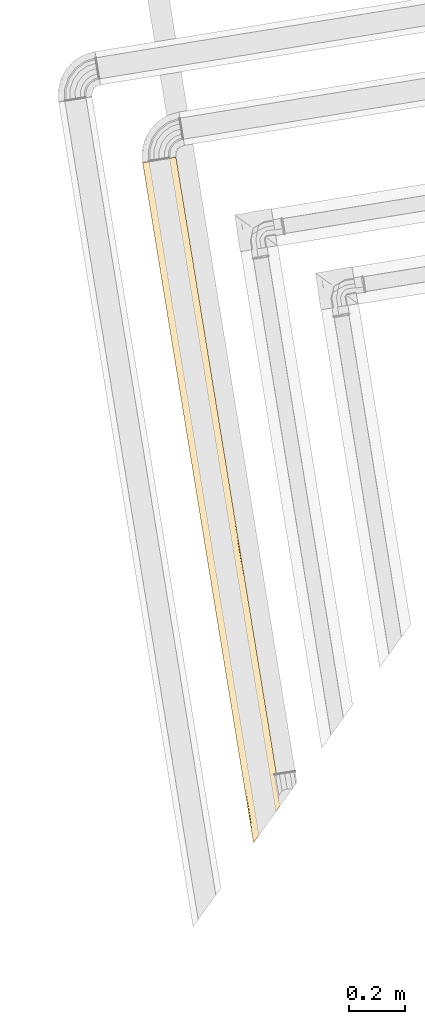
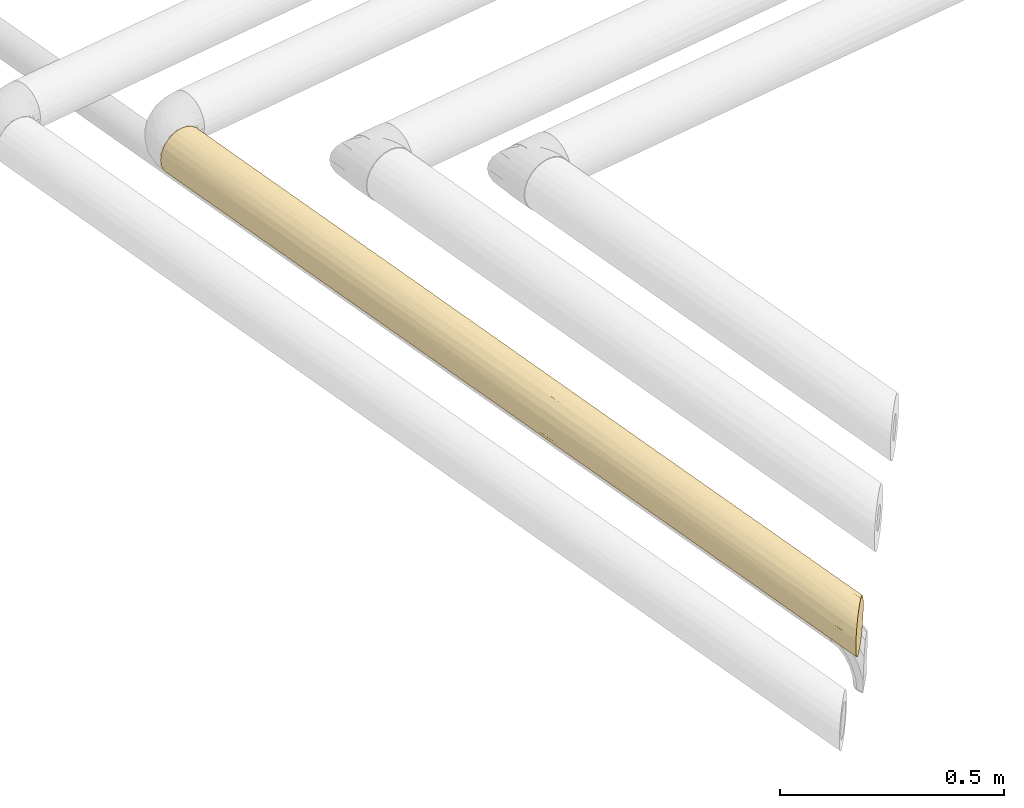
# One storey, part 1 of 46: 1 covering.
"""IFC2X3 building model written with IfcOpenShell, lengths in millimetres."""

from ifc_helpers import new_model, entity, si_unit, converted_unit, derived_unit, direction, frame, origin, origin_with_axes, place, context, subcontext, project, spatial, faceted_brep, type_object, element, save


model = new_model("IFC2X3")

# Units and contexts
model_context = context("Model", 3, precision=0.01, world=origin(), true_north=direction((6.12323399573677e-17, 1.0)))
plan_context = context("Plan", 3, precision=1e-05, world=origin_with_axes())
body_context = subcontext(model_context, "Body", "Model", "MODEL_VIEW")
ifc_project = project(units=[converted_unit("PLANEANGLEUNIT", "DEGREE", entity("IfcPositiveLengthMeasure", 0.0174532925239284), si_unit("PLANEANGLEUNIT", "RADIAN"), dimensions=[0, 0, 0, 0, 0, 0, 0]), si_unit("AREAUNIT", "SQUARE_METRE"), si_unit("LENGTHUNIT", "METRE", prefix="MILLI"), si_unit("MASSUNIT", "GRAM", prefix="KILO"), si_unit("POWERUNIT", "WATT"), si_unit("PRESSUREUNIT", "PASCAL", prefix="KILO"), si_unit("FORCEUNIT", "NEWTON", prefix="KILO"), si_unit("ELECTRICVOLTAGEUNIT", "VOLT"), si_unit("ELECTRICCURRENTUNIT", "AMPERE"), si_unit("THERMODYNAMICTEMPERATUREUNIT", "DEGREE_CELSIUS"), si_unit("TIMEUNIT", "SECOND"), si_unit("VOLUMEUNIT", "CUBIC_METRE"), derived_unit("LINEARVELOCITYUNIT", [(si_unit("LENGTHUNIT", "METRE"), 1), (si_unit("TIMEUNIT", "SECOND"), -1)]), derived_unit("VOLUMETRICFLOWRATEUNIT", [(si_unit("VOLUMEUNIT", "CUBIC_METRE"), 1), (si_unit("TIMEUNIT", "SECOND"), -1)]), derived_unit("THERMALTRANSMITTANCEUNIT", [(si_unit("POWERUNIT", "WATT"), 1), (si_unit("THERMODYNAMICTEMPERATUREUNIT", "KELVIN"), -1), (si_unit("AREAUNIT", "SQUARE_METRE"), -1)]), derived_unit("SOUNDPRESSUREUNIT", [(si_unit("PRESSUREUNIT", "PASCAL"), 1)])], contexts=[model_context, plan_context])

# Site, building, storey
site_placement = place(None, frame((-3.09682673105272e-06, 1.93776733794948e-05, 0.0), z_axis=(0.0, 0.0, 1.0), x_axis=(-0.160806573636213, 0.986985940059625, 0.0)))
site = spatial("IfcSite", under=ifc_project, at=site_placement, Name="Default", CompositionType="ELEMENT")
building_placement = place(site_placement, frame((0.0, 0.0, 0.0), z_axis=(0.0, 0.0, 1.0), x_axis=(1.0, -2.77555756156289e-17, 0.0)))
building = spatial("IfcBuilding", under=site, at=building_placement, Name="Bygning (endres i Project Information)", CompositionType="ELEMENT")
storey_placement = place(building_placement, frame((0.0, 0.0, 51360.0000000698), z_axis=(0.0, 0.0, 1.0), x_axis=(1.0, -2.77555756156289e-17, 0.0)))
storey = spatial("IfcBuildingStorey", under=building, at=storey_placement, Name="H01-Nivå D+0,36", CompositionType="ELEMENT", Elevation=51360.0000000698)

# Covering
covering_type = type_object("IfcCoveringType", Name="Pipe Insulation:GLAVA avløpsisol. slange økende 19mm (15,5-25,0)", PredefinedType="INSULATION")
covering_placement = place(storey_placement, frame((995884.936842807, -347069.044426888, 3378.35472846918), z_axis=(0.0, 0.0, 1.0), x_axis=(1.0, -2.77555756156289e-17, 0.0)))
element("IfcCovering", 1, at=covering_placement, inside=storey, type_object=covering_type, Name="Pipe Insulation:GLAVA avløpsisol. slange økende 19mm (15,5-25,0)", ObjectType="Pipe Insulation:GLAVA avløpsisol. slange økende 19mm (15,5-25,0)", PredefinedType="INSULATION", context=body_context, shape_type="Brep", body=[
    faceted_brep([(3721.93080012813, 113.650096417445, 31.6202718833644), (3721.93080012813, 104.107033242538, 19.183509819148), (3721.93080012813, 91.6702711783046, 9.64044664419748), (3721.93080012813, 77.1873550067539, 3.64142634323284), (3721.93080012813, 61.6452715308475, 1.5952722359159), (3721.93080012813, 46.103188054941, 3.64142634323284), (3721.93080012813, 31.6202718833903, 9.64044664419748), (3721.93080012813, 19.1835098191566, 19.183509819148), (3721.93080012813, 9.64044664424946, 31.6202718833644), (3721.93080012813, 3.64142634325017, 46.1031880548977), (3721.93080012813, 1.59527223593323, 61.6452715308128), (3721.93080012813, 3.64142634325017, 77.1873550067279), (3721.93080012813, 9.64044664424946, 91.6702711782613), (3721.93080012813, 19.1835098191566, 104.107033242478), (3721.93080012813, 31.6202718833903, 113.650096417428), (3721.93080012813, 46.103188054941, 119.649116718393), (3721.93080012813, 61.6452715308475, 121.69527082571), (3721.93080012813, 77.1873550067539, 119.649116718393), (3721.93080012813, 91.6702711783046, 113.650096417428), (3721.93080012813, 104.107033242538, 104.107033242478), (3721.93080012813, 113.650096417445, 91.6702711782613), (3721.93080012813, 119.649116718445, 77.1873550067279), (3721.93080012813, 121.695270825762, 61.6452715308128), (3721.93080012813, 119.649116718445, 46.1031880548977), (1312.61931771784, 80.6968619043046, 4.69768372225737), (1313.14008855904, 80.1760910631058, 4.61520286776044), (1319.8075302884, 80.7113602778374, 4.70243462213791), (1311.9381200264, 81.3780595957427, 5.05701463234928), (1280.3762537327, 112.939925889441, 30.6633684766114), (1286.5334387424, 106.782740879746, 22.0410832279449), (1625.16788861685, 109.029884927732, 24.7575929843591), (1286.6721727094, 106.644006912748, 21.9039986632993), (1514.65136504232, 98.7809884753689, 14.4547964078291), (1294.85265356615, 98.4635260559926, 14.208101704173), (1916.29816244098, 98.4979429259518, 14.2334267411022), (1708.62419371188, 89.4999537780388, 8.44640789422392), (2053.82594239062, 88.3421722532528, 7.85607273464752), (2365.21461210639, 99.3431061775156, 14.902617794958), (2112.46715155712, 110.447666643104, 26.6548636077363), (2608.56754587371, 109.286139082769, 25.0891481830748), (2402.1232671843, 118.588108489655, 42.5791829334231), (2766.36439129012, 118.828846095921, 43.3138445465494), (2639.61555903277, 121.695270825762, 61.6452715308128), (3078.37912275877, 120.597692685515, 50.216603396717), (3180.77317958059, 121.695270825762, 61.6452715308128), (3079.14038784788, 120.581439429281, 73.1574619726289), (2706.12874762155, 119.78592790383, 76.6674714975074), (3020.23775429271, 117.124236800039, 84.6254113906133), (2670.80988597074, 115.376230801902, 88.4591938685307), (2813.3426711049, 109.298154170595, 98.1857311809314), (2365.21461305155, 108.387925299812, 99.3431061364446), (2369.03613012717, 117.638042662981, 83.343474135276), (2053.82594411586, 115.434470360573, 88.3421721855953), (2233.74666286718, 120.672249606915, 72.6824031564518), (1827.87826199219, 119.448115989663, 77.9189800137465), (2098.45835690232, 121.695270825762, 61.6452715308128), (2164.63048219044, 121.695270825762, 61.6452715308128), (2369.03587341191, 121.695270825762, 61.6452715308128), (1894.05253700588, 120.762928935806, 51.1046359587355), (1623.47286164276, 121.695270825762, 61.6452715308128), (1557.29965179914, 121.695270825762, 61.6452715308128), (1352.89306648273, 121.695270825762, 61.6452715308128), (1488.18413595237, 120.762928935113, 51.1046359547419), (1274.13046838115, 119.185711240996, 77.0443656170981), (1271.62090879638, 121.695270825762, 61.6452715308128), (1319.80753212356, 118.588108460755, 80.7113602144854), (1274.69825712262, 118.617922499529, 80.6203763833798), (1291.76328357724, 101.552896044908, 106.468414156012), (1284.2218065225, 109.09437309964, 98.4481715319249), (1514.65136591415, 108.835746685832, 98.7809884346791), (1292.11146636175, 101.204713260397, 106.819756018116), (1625.16789060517, 98.5329501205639, 109.029884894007), (1300.34693641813, 92.9692432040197, 112.713452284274), (1331.6709080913, 61.6452715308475, 121.69527082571), (1330.63036898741, 62.6858106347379, 121.564146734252), (1352.8904658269, 61.6452715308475, 121.69527082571), (1348.43850402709, 44.8776755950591, 118.962689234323), (1557.30258108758, 61.6452715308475, 121.69527082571), (1373.66911288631, 19.6470667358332, 104.229162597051), (1368.59567199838, 24.720507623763, 108.999674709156), (1514.65136592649, 24.5095546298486, 108.835746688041), (1377.41143452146, 15.904745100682, 100.520440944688), (1625.16789228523, 14.2606581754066, 98.5329501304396), (1381.81521403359, 11.5009655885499, 94.3646754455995), (1388.77327584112, 4.54290378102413, 44.3715799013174), (1391.72090738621, 1.59527223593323, 61.6452715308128), (1623.47361148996, 1.59527223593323, 61.6452715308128), (1391.45520240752, 1.86097721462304, 64.6492117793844), (1488.18413499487, 2.52761414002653, 72.1859071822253), (1894.052535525, 2.52761413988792, 72.1859071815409), (2164.63148198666, 1.59527223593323, 61.6452715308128), (1390.58540978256, 2.73076983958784, 73.1226042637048), (1623.47360173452, 5.29568859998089, 82.3992330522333), (1388.65724334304, 4.65893627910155, 78.1673097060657), (1385.95065838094, 7.36552124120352, 86.9062027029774), (1986.56159275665, 6.39342637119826, 85.1662413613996), (2402.12326722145, 4.7024345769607, 80.7113601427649), (2112.46715261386, 12.8428764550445, 96.6356795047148), (1916.29816349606, 24.79260018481, 109.05711635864), (2365.21461332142, 23.9474369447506, 108.387925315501), (2053.82594439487, 34.9483709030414, 115.434470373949), (1708.62419523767, 33.7905892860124, 114.844135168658), (1353.89856615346, 39.4176134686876, 116.881777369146), (1351.45227677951, 41.8639028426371, 118.283396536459), (1350.56793615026, 42.7482434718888, 118.640176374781), (1827.8782635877, 45.3715630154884, 119.448115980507), (2233.74666420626, 50.6081399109, 120.672249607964), (2369.0361312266, 39.9470689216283, 117.638042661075), (2706.12874834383, 46.6230715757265, 119.785927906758), (2369.0368124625, 61.6452715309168, 121.69527082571), (2098.45873533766, 61.6452715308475, 121.69527082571), (2164.6300688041, 61.6452715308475, 121.69527082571), (2639.61386448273, 61.6452715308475, 121.69527082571), (2402.12326728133, 80.7113601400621, 118.588108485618), (2766.36439146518, 79.9766985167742, 118.828846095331), (3078.37912334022, 73.0739396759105, 120.597692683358), (3180.77233230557, 61.6452715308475, 121.69527082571), (3079.14038835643, 50.1330810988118, 120.581439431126), (3020.23775481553, 38.6651316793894, 117.124236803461), (2670.80988697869, 34.8313492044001, 115.376230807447), (2813.34267157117, 25.1048118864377, 109.298154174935), (2608.56754657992, 14.0044040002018, 98.2013949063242), (2980.90033073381, 15.8085501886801, 100.439567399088), (3106.72725288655, 6.16630625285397, 84.6254113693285), (2766.36439150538, 4.46169696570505, 79.976698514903), (3078.37912366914, 2.69285037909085, 73.0739396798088), (3398.75959711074, 2.49976550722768, 72.0285047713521), (3449.63233174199, 6.16630625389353, 84.6254113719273), (3353.23311490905, 14.0044040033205, 98.2013949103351), (3278.22863887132, 25.089148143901, 109.2861390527), (3402.03615702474, 38.6651316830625, 117.124236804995), (3400.9419971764, 51.3673052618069, 120.80916106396), (3398.75959694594, 72.0285047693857, 120.790777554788), (3449.63233171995, 84.6254113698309, 117.12423680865), (3106.72725277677, 84.625411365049, 117.124236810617), (3353.23311470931, 98.2013949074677, 109.286139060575), (3278.22863859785, 109.286139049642, 98.2013949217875), (2980.90033052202, 100.43956740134, 107.481992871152), (2608.56754637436, 98.2013948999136, 109.286139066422), (3402.03615679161, 117.124236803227, 84.6254113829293), (3400.94199691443, 120.809161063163, 71.9232378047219), (3398.75959664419, 120.790777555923, 51.2620382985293), (3449.63233169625, 117.124236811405, 38.6651316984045), (3106.72725258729, 117.124236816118, 38.6651317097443), (3353.23311435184, 109.286139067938, 25.0891481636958), (3278.22863801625, 98.2013949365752, 14.0044040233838), (2980.90033006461, 107.481992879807, 22.8509756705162), (2813.34267017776, 98.1857312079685, 13.9923889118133), (3020.23775289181, 84.6254114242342, 6.16630627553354), (2670.80988346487, 88.4591939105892, 7.91431228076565), (2369.03612707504, 83.3434741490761, 5.65250040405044), (2706.12874546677, 76.6674715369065, 3.5046151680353), (2233.74665910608, 72.6824031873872, 2.61829346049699), (1827.87825773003, 77.9189799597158, 3.8424270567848), (2098.45709032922, 61.6452715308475, 1.5952722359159), (2164.63151125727, 61.6452715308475, 1.5952722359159), (2369.03590975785, 61.6452715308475, 1.5952722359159), (1623.47341881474, 61.6452715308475, 1.5952722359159), (1693.04622073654, 51.139064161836, 2.52148594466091), (1971.65129605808, 48.3672242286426, 3.08166615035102), (2444.54986683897, 52.0727473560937, 2.36315621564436), (2402.12326547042, 40.4959764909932, 5.44287180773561), (2727.44708785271, 46.4789739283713, 3.54203726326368), (2690.24299271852, 34.9024303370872, 7.87889858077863), (3020.23775236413, 38.6651317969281, 6.16630620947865), (2813.34266997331, 25.1048120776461, 13.9923887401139), (2321.05142652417, 24.5870451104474, 14.3939194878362), (2608.56754366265, 14.0044042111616, 25.0891478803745), (2212.23345175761, 14.430856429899, 24.5399966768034), (2402.1232560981, 4.70243470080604, 42.5791825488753), (2023.04286295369, 8.37851502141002, 33.9206422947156), (1815.66546792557, 14.1427153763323, 24.9095998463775), (1961.36519917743, 22.840709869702, 15.8172407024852), (1416.54581473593, 23.2704165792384, 15.4568214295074), (1694.74399467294, 29.5071248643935, 10.9191249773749), (1358.63113627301, 34.6850433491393, 8.17047484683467), (1367.20524964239, 26.1109299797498, 13.7063695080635), (1354.31654656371, 38.9996330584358, 6.05676574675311), (1623.47360182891, 40.9569530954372, 5.27155517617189), (2009.60447111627, 34.1494518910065, 8.26004588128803), (1343.32566629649, 49.9905133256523, 2.76863834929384), (1342.91990299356, 50.3962766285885, 2.6584601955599), (1331.6709080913, 61.6452715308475, 1.5952722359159), (1342.51848743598, 50.7976921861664, 2.62261749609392), (1369.85418821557, 23.4619914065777, 15.3049331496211), (1371.11479104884, 22.2013885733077, 16.5681114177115), (1379.70207475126, 13.6141048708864, 25.6044873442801), (1440.61691630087, 13.5474967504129, 25.6924346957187), (1664.71056870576, 7.63372726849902, 35.4011197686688), (1385.17495053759, 8.14122908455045, 35.8290532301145), (1388.02521310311, 5.29096651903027, 41.0178062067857), (1388.39819028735, 4.9179893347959, 41.9698009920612), (1894.05253355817, 3.84242703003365, 45.3715631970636), (2639.61505913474, 1.59527223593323, 61.6452715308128), (2910.19398783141, 2.55449971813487, 50.9549440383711), (3180.77292963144, 1.59527223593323, 61.6452715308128), (3236.20279088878, 2.83106838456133, 49.5253736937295), (3106.72725220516, 6.16630639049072, 38.6651313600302), (3437.16427402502, 5.64999038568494, 39.953547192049), (3353.23311411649, 14.0044041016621, 25.0891480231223), (2980.90032944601, 15.8085504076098, 22.8509754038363), (2748.89130531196, 5.87886888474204, 39.3717277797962), (3278.22863727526, 25.089148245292, 14.0044039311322), (3402.03615607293, 38.6651317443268, 6.16630623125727), (3400.94199643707, 51.3673053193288, 2.48138198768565), (3079.14038714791, 50.1330811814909, 2.70910361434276), (3180.7727076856, 61.6452715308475, 1.5952722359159), (2639.6150444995, 61.6452715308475, 1.5952722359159), (3079.14038656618, 73.1574620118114, 2.70910364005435), (3402.03615616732, 84.6254114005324, 6.16630626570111), (3400.94199628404, 71.9232378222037, 2.48138200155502), (1557.29945147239, 61.6452715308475, 1.5952722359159), (2112.46715215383, 96.6356794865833, 110.447666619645), (1916.29816340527, 109.057116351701, 98.4979428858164), (1986.56159312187, 85.1662413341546, 116.897116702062), (1623.47360215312, 82.399233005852, 117.994854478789), (1894.05253614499, 72.1859071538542, 120.762928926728), (1488.18413542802, 72.1859071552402, 120.762928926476), (1310.44866288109, 82.8675167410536, 116.956806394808), (1304.87150976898, 88.4446698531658, 115.2184784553), (1623.4716009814, 61.6452715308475, 121.69527082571), (1319.51144789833, 73.8047317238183, 120.411829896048), (1708.62419517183, 114.844135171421, 89.4999537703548), (1276.67168674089, 116.644492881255, 84.3658448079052), (1272.09683868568, 121.219340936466, 57.8685158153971), (1273.00116275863, 120.315016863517, 49.0394321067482), (1277.07407448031, 116.242105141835, 38.417268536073), (1278.32899899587, 114.987180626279, 34.3422323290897), (1623.47360258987, 117.994854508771, 40.8913101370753), (1986.56159355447, 116.89711672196, 38.1243017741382)], [[[0, 1, 2, 3, 4, 5, 6, 7, 8, 9, 10, 11, 12, 13, 14, 15, 16, 17, 18, 19, 20, 21, 22, 23]], [[24, 25, 26]], [[27, 24, 26]], [[28, 29, 30]], [[29, 31, 32, 30]], [[31, 33, 32]], [[30, 32, 34]], [[35, 34, 32]], [[34, 35, 36]], [[34, 36, 37]], [[34, 37, 38]], [[38, 37, 39]], [[40, 38, 39]], [[40, 39, 41]], [[40, 41, 42]], [[41, 43, 42]], [[43, 44, 42]], [[45, 42, 44]], [[46, 42, 45]], [[45, 47, 46]], [[46, 47, 48]], [[49, 48, 47]], [[48, 49, 50]], [[51, 48, 50]], [[50, 52, 51]], [[53, 51, 52]], [[54, 53, 52]], [[53, 54, 55]], [[55, 56, 57, 53]], [[46, 53, 57]], [[58, 56, 55, 59, 60, 61, 62]], [[63, 64, 60, 65]], [[66, 63, 65]], [[67, 68, 69]], [[70, 67, 69, 71]], [[72, 70, 71]], [[73, 74, 75]], [[76, 73, 77]], [[78, 79, 80]], [[81, 78, 80, 82]], [[83, 81, 82]], [[84, 85, 86]], [[85, 87, 88, 89, 90]], [[87, 91, 88]], [[92, 89, 88]], [[93, 94, 92, 88]], [[92, 95, 89]], [[89, 95, 96]], [[97, 96, 95]], [[97, 95, 82]], [[98, 97, 82]], [[98, 99, 97]], [[98, 100, 99]], [[98, 101, 100]], [[101, 98, 80]], [[102, 103, 101, 80]], [[103, 104, 105, 101]], [[100, 101, 105]], [[105, 106, 100]], [[106, 107, 100]], [[107, 106, 108]], [[108, 106, 109]], [[110, 111, 109, 106]], [[112, 109, 111, 113]], [[113, 114, 112]], [[114, 115, 112]], [[115, 116, 112]], [[117, 112, 116]], [[108, 112, 117]], [[117, 118, 108]], [[108, 118, 119]], [[120, 119, 118]], [[119, 120, 99]], [[107, 119, 99]], [[121, 99, 120]], [[122, 121, 120]], [[121, 122, 123]], [[123, 124, 121]], [[123, 125, 124]], [[126, 125, 123]], [[127, 126, 123]], [[123, 128, 127]], [[12, 127, 128]], [[128, 13, 12]], [[13, 128, 129]], [[128, 122, 129]], [[13, 129, 14]], [[129, 130, 14]], [[118, 130, 129]], [[14, 130, 15]], [[15, 130, 131]], [[15, 131, 16]], [[131, 116, 16]], [[116, 132, 16]], [[16, 132, 17]], [[132, 133, 17]], [[133, 132, 134]], [[132, 115, 134]], [[134, 135, 133]], [[18, 133, 135]], [[135, 19, 18]], [[19, 135, 136]], [[135, 137, 136]], [[137, 49, 136]], [[137, 138, 49]], [[138, 137, 134]], [[134, 114, 138]], [[19, 136, 20]], [[136, 139, 20]], [[47, 139, 136]], [[20, 139, 21]], [[21, 139, 140]], [[21, 140, 22]], [[140, 44, 22]], [[44, 141, 22]], [[22, 141, 23]], [[141, 142, 23]], [[142, 141, 143]], [[141, 43, 143]], [[143, 144, 142]], [[0, 142, 144]], [[144, 1, 0]], [[145, 1, 144]], [[144, 146, 145]], [[146, 147, 145]], [[148, 145, 147]], [[147, 149, 148]], [[149, 147, 37]], [[150, 149, 37]], [[149, 150, 151]], [[152, 151, 150]], [[152, 150, 36]], [[153, 152, 36]], [[152, 153, 154]], [[154, 155, 156, 152]], [[155, 154, 157, 158]], [[159, 155, 158]], [[160, 155, 159]], [[161, 160, 159]], [[161, 162, 160]], [[161, 163, 162]], [[162, 163, 164]], [[164, 163, 165]], [[165, 163, 166]], [[167, 165, 166]], [[166, 168, 167]], [[167, 168, 169]], [[168, 170, 169]], [[170, 168, 171]], [[171, 168, 172]], [[171, 172, 173]], [[173, 172, 174]], [[175, 176, 173, 174]], [[177, 175, 174, 178]], [[174, 179, 178]], [[159, 178, 179]], [[180, 177, 178]], [[181, 180, 178, 158]], [[182, 183, 157]], [[176, 184, 173]], [[184, 185, 173]], [[185, 186, 187, 173]], [[172, 179, 174]], [[172, 166, 179]], [[161, 179, 166]], [[171, 173, 187]], [[187, 188, 171]], [[189, 190, 188, 187]], [[190, 191, 192, 188]], [[170, 188, 192]], [[171, 188, 170]], [[192, 169, 170]], [[90, 169, 192]], [[169, 90, 193]], [[96, 193, 90]], [[96, 124, 193]], [[193, 194, 169]], [[195, 194, 193]], [[125, 195, 193]], [[196, 194, 195]], [[197, 194, 196]], [[197, 196, 198]], [[197, 198, 199]], [[199, 200, 197]], [[200, 201, 197]], [[167, 201, 200]], [[202, 200, 199]], [[165, 200, 202]], [[199, 7, 202]], [[199, 8, 7]], [[7, 6, 202]], [[6, 203, 202]], [[203, 6, 5]], [[203, 5, 204]], [[203, 204, 205]], [[164, 203, 205]], [[204, 206, 205]], [[205, 206, 207]], [[208, 207, 206]], [[151, 207, 208]], [[208, 148, 151]], [[148, 208, 209]], [[208, 210, 209]], [[3, 209, 210]], [[3, 210, 4]], [[210, 206, 4]], [[2, 209, 3]], [[145, 209, 2]], [[151, 156, 207]], [[208, 206, 210]], [[162, 205, 207]], [[206, 204, 4]], [[4, 204, 5]], [[202, 203, 164]], [[8, 199, 198]], [[198, 9, 8]], [[196, 9, 198]], [[9, 196, 10]], [[197, 201, 194]], [[196, 195, 10]], [[195, 126, 10]], [[10, 126, 11]], [[201, 169, 194]], [[201, 167, 169]], [[166, 172, 168]], [[200, 165, 167]], [[164, 165, 202]], [[164, 205, 162]], [[163, 161, 166]], [[207, 160, 162]], [[179, 161, 159]], [[178, 159, 158]], [[183, 181, 158, 157]], [[207, 156, 155, 160]], [[211, 157, 154, 153]], [[211, 153, 26]], [[153, 35, 26]], [[151, 152, 156]], [[151, 148, 149]], [[148, 209, 145]], [[146, 39, 147]], [[39, 146, 143]], [[1, 145, 2]], [[144, 143, 146]], [[0, 23, 142]], [[45, 140, 139]], [[135, 134, 137]], [[18, 17, 133]], [[117, 131, 130]], [[12, 11, 127]], [[126, 127, 11]], [[126, 195, 125]], [[124, 125, 193]], [[96, 121, 124]], [[128, 123, 122]], [[122, 120, 129]], [[118, 129, 120]], [[118, 117, 130]], [[117, 116, 131]], [[132, 116, 115]], [[134, 115, 114]], [[113, 138, 114]], [[113, 212, 138]], [[212, 50, 138]], [[213, 50, 212]], [[213, 212, 71]], [[212, 214, 71]], [[214, 215, 71]], [[215, 214, 216]], [[215, 216, 217]], [[218, 219, 215, 217]], [[216, 214, 113]], [[214, 212, 113]], [[111, 216, 113]], [[108, 109, 112]], [[119, 107, 108]], [[110, 106, 105]], [[77, 220, 110, 105]], [[99, 100, 107]], [[97, 99, 121]], [[96, 97, 121]], [[95, 92, 82]], [[89, 96, 90]], [[192, 86, 90]], [[191, 84, 86, 192]], [[186, 189, 187]], [[91, 93, 88]], [[94, 83, 82, 92]], [[82, 80, 98]], [[79, 102, 80]], [[104, 76, 77, 105]], [[216, 111, 110, 220, 77, 75, 217]], [[74, 221, 217, 75]], [[221, 218, 217]], [[219, 72, 71, 215]], [[71, 69, 213]], [[222, 213, 69]], [[213, 222, 52]], [[222, 69, 65]], [[54, 222, 65]], [[68, 223, 65, 69]], [[223, 66, 65]], [[60, 54, 65]], [[64, 224, 61]], [[224, 225, 62, 61]], [[225, 226, 62]], [[226, 227, 228, 62]], [[228, 58, 62]], [[228, 229, 58]], [[58, 229, 40]], [[229, 228, 30]], [[38, 229, 30]], [[56, 58, 40]], [[60, 59, 55, 54]], [[52, 222, 54]], [[53, 46, 51]], [[213, 52, 50]], [[138, 50, 49]], [[47, 136, 49]], [[48, 51, 46]], [[47, 45, 139]], [[46, 57, 42]], [[45, 44, 140]], [[141, 44, 43]], [[143, 43, 41]], [[42, 57, 56, 40]], [[143, 41, 39]], [[229, 38, 40]], [[39, 37, 147]], [[37, 36, 150]], [[36, 35, 153]], [[35, 32, 26]], [[34, 38, 30]], [[227, 28, 30, 228]], [[33, 27, 26, 32]], [[25, 182, 211, 26]], [[27, 33, 31, 29, 28, 227, 226, 225, 224, 64, 63, 66, 223, 68, 67, 70, 72, 219, 218, 221, 74, 73, 76, 104, 103, 102, 79, 78, 81, 83, 94, 93, 91, 87, 85, 84, 191, 190, 189, 186, 185, 184, 176, 175, 177, 180, 181, 183, 182, 25, 24]]], orient=[[False], [False], [False], [False], [False], [False], [False], [False], [False], [False], [False], [False], [False], [False], [False], [False], [False], [False], [False], [False], [False], [False], [False], [False], [False], [False], [False], [False], [False], [False], [False], [False], [False], [False], [False], [False], [False], [False], [False], [False], [False], [False], [False], [False], [False], [False], [False], [False], [False], [False], [False], [False], [False], [False], [False], [False], [False], [False], [False], [False], [False], [False], [False], [False], [False], [False], [False], [False], [False], [False], [False], [False], [False], [False], [False], [False], [False], [False], [False], [False], [False], [False], [False], [False], [False], [False], [False], [False], [False], [False], [False], [False], [False], [False], [False], [False], [False], [False], [False], [False], [False], [False], [False], [False], [False], [False], [False], [False], [False], [False], [False], [False], [False], [False], [False], [False], [False], [False], [False], [False], [False], [False], [False], [False], [False], [False], [False], [False], [False], [False], [False], [False], [False], [False], [False], [False], [False], [False], [False], [False], [False], [False], [False], [False], [False], [False], [False], [False], [False], [False], [False], [False], [False], [False], [False], [False], [False], [False], [False], [False], [False], [False], [False], [False], [False], [False], [False], [False], [False], [False], [False], [False], [False], [False], [False], [False], [False], [False], [False], [False], [False], [False], [False], [False], [False], [False], [False], [False], [False], [False], [False], [False], [False], [False], [False], [False], [False], [False], [False], [False], [False], [False], [False], [False], [False], [False], [False], [False], [False], [False], [False], [False], [False], [False], [False], [False], [False], [False], [False], [False], [False], [False], [False], [False], [False], [False], [False], [False], [False], [False], [False], [False], [False], [False], [False], [False], [False], [False], [False], [False], [False], [False], [False], [False], [False], [False], [False], [False], [False], [False], [False], [False], [False], [False], [False], [False], [False], [False], [False], [False], [False], [False], [False], [False], [False], [False], [False], [False], [False], [False], [False], [False], [False], [False], [False], [False], [False], [False], [False], [False], [False], [False], [False], [False], [False], [False], [False], [False], [False], [False], [False], [False], [False], [False], [False], [False], [False], [False], [False], [False], [False], [False], [False], [False], [False], [False], [False], [False], [False], [False], [False], [False], [False], [False], [False], [False], [False], [False], [False], [False], [False], [False], [False], [False], [False], [False], [False], [False], [False], [False], [False], [False], [False], [False], [False], [False], [False]]),
])

save(model, "model.ifc")
